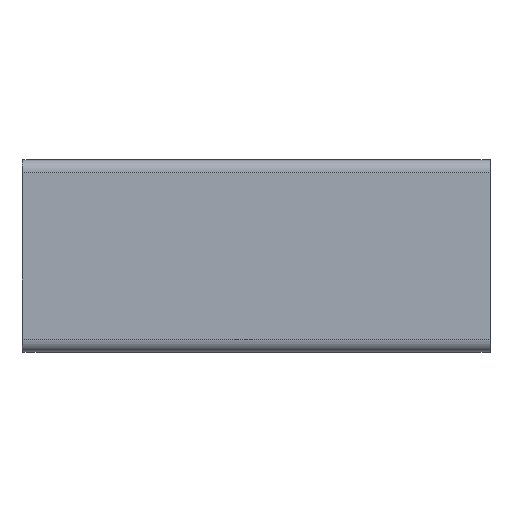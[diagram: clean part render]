
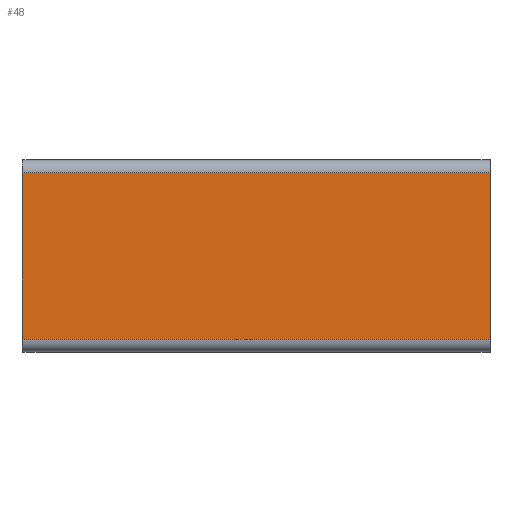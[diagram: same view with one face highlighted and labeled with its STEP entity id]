
A CAD part, top view. The second image highlights one B-rep face of the part: STEP entity #48.
In plain terms, the highlighted planar face has unit normal (0, 0, 1).
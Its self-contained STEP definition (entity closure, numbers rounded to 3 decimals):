
#48 = ADVANCED_FACE( '', ( #109 ), #110, .F. );
#109 = FACE_OUTER_BOUND( '', #182, .T. );
#110 = PLANE( '', #183 );
#182 = EDGE_LOOP( '', ( #261, #262, #263, #264 ) );
#183 = AXIS2_PLACEMENT_3D( '', #265, #266, #267 );
#261 = ORIENTED_EDGE( '', *, *, #438, .T. );
#262 = ORIENTED_EDGE( '', *, *, #439, .F. );
#263 = ORIENTED_EDGE( '', *, *, #440, .F. );
#264 = ORIENTED_EDGE( '', *, *, #441, .T. );
#265 = CARTESIAN_POINT( '', ( 85., -2.5, 10.5 ) );
#266 = DIRECTION( '', ( 0., 0., -1. ) );
#267 = DIRECTION( '', ( 0., 1., 0. ) );
#438 = EDGE_CURVE( '', #520, #521, #522, .T. );
#439 = EDGE_CURVE( '', #523, #521, #524, .T. );
#440 = EDGE_CURVE( '', #525, #523, #526, .T. );
#441 = EDGE_CURVE( '', #525, #520, #527, .T. );
#520 = VERTEX_POINT( '', #635 );
#521 = VERTEX_POINT( '', #636 );
#522 = LINE( '', #637, #638 );
#523 = VERTEX_POINT( '', #639 );
#524 = LINE( '', #640, #641 );
#525 = VERTEX_POINT( '', #642 );
#526 = LINE( '', #643, #644 );
#527 = LINE( '', #645, #646 );
#635 = CARTESIAN_POINT( '', ( -5., -2.5, 10.5 ) );
#636 = CARTESIAN_POINT( '', ( -5., -34.5, 10.5 ) );
#637 = CARTESIAN_POINT( '', ( -5., -2.5, 10.5 ) );
#638 = VECTOR( '', #763, 1000. );
#639 = CARTESIAN_POINT( '', ( 85., -34.5, 10.5 ) );
#640 = CARTESIAN_POINT( '', ( 85., -34.5, 10.5 ) );
#641 = VECTOR( '', #764, 1000. );
#642 = CARTESIAN_POINT( '', ( 85., -2.5, 10.5 ) );
#643 = CARTESIAN_POINT( '', ( 85., -2.5, 10.5 ) );
#644 = VECTOR( '', #765, 1000. );
#645 = CARTESIAN_POINT( '', ( 85., -2.5, 10.5 ) );
#646 = VECTOR( '', #766, 1000. );
#763 = DIRECTION( '', ( 0., -1., 0. ) );
#764 = DIRECTION( '', ( -1., 0., 0. ) );
#765 = DIRECTION( '', ( 0., -1., 0. ) );
#766 = DIRECTION( '', ( -1., 0., 0. ) );
